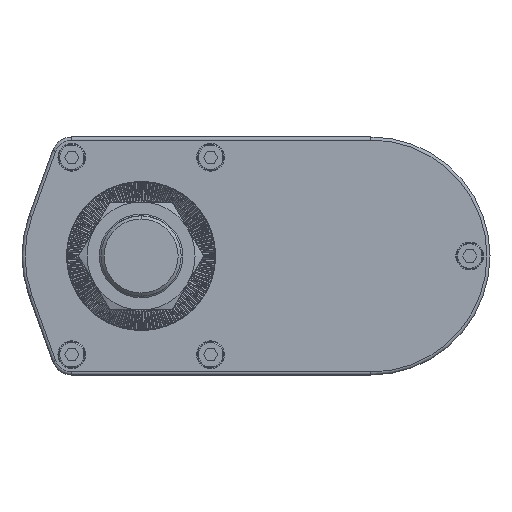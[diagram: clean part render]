
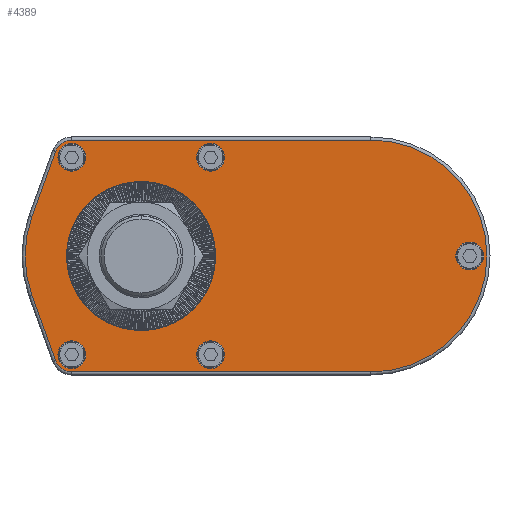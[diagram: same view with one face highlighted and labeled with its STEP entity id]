
A CAD part, left-side view. The second image highlights one B-rep face of the part: STEP entity #4389.
In plain terms, the highlighted planar face has unit normal (-1, 0, 0).
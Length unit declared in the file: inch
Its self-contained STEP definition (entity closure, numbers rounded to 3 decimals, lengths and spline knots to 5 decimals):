
#4389=ADVANCED_FACE('',(#9092,#9093,#9094,#9095,#9096,#9097,#9098),#9099,.F.);
#9092=FACE_BOUND('',#14452,.T.);
#9093=FACE_BOUND('',#14453,.T.);
#9094=FACE_BOUND('',#14454,.T.);
#9095=FACE_BOUND('',#14455,.T.);
#9096=FACE_BOUND('',#14456,.T.);
#9097=FACE_BOUND('',#14457,.T.);
#9098=FACE_OUTER_BOUND('',#14458,.T.);
#9099=PLANE('',#14459);
#14452=EDGE_LOOP('',(#27464,#27465));
#14453=EDGE_LOOP('',(#27466,#27467));
#14454=EDGE_LOOP('',(#27468,#27469));
#14455=EDGE_LOOP('',(#27470,#27471));
#14456=EDGE_LOOP('',(#27472,#27473));
#14457=EDGE_LOOP('',(#27474,#27475));
#14458=EDGE_LOOP('',(#27476,#27477,#27478,#27479,#27480,#27481,#27482,#27483));
#14459=AXIS2_PLACEMENT_3D('',#27484,#27485,#27486);
#27464=ORIENTED_EDGE('',*,*,#30936,.F.);
#27465=ORIENTED_EDGE('',*,*,#34832,.F.);
#27466=ORIENTED_EDGE('',*,*,#35222,.T.);
#27467=ORIENTED_EDGE('',*,*,#31739,.T.);
#27468=ORIENTED_EDGE('',*,*,#33063,.T.);
#27469=ORIENTED_EDGE('',*,*,#33734,.T.);
#27470=ORIENTED_EDGE('',*,*,#31790,.T.);
#27471=ORIENTED_EDGE('',*,*,#30305,.T.);
#27472=ORIENTED_EDGE('',*,*,#35181,.T.);
#27473=ORIENTED_EDGE('',*,*,#34360,.T.);
#27474=ORIENTED_EDGE('',*,*,#35223,.T.);
#27475=ORIENTED_EDGE('',*,*,#31310,.T.);
#27476=ORIENTED_EDGE('',*,*,#30865,.T.);
#27477=ORIENTED_EDGE('',*,*,#33901,.T.);
#27478=ORIENTED_EDGE('',*,*,#32261,.T.);
#27479=ORIENTED_EDGE('',*,*,#32916,.T.);
#27480=ORIENTED_EDGE('',*,*,#32761,.T.);
#27481=ORIENTED_EDGE('',*,*,#31705,.T.);
#27482=ORIENTED_EDGE('',*,*,#34961,.T.);
#27483=ORIENTED_EDGE('',*,*,#31522,.T.);
#27484=CARTESIAN_POINT('',(0.0,-2.93307,0.0));
#27485=DIRECTION('',(1.0,0.0,0.0));
#27486=DIRECTION('',(0.0,1.0,-0.0));
#30305=EDGE_CURVE('',#36197,#36195,#36198,.T.);
#30865=EDGE_CURVE('',#37156,#37161,#37163,.F.);
#30936=EDGE_CURVE('',#37278,#37280,#37281,.F.);
#31310=EDGE_CURVE('',#37945,#37943,#37946,.T.);
#31522=EDGE_CURVE('',#38282,#37156,#38286,.F.);
#31705=EDGE_CURVE('',#38577,#38574,#38578,.F.);
#31739=EDGE_CURVE('',#38629,#38627,#38630,.T.);
#31790=EDGE_CURVE('',#36195,#36197,#38718,.T.);
#32261=EDGE_CURVE('',#39436,#39434,#39437,.F.);
#32761=EDGE_CURVE('',#40172,#38577,#40173,.F.);
#32916=EDGE_CURVE('',#39434,#40172,#40390,.F.);
#33063=EDGE_CURVE('',#40588,#40592,#40594,.T.);
#33734=EDGE_CURVE('',#40592,#40588,#41495,.T.);
#33901=EDGE_CURVE('',#37161,#39436,#41703,.F.);
#34360=EDGE_CURVE('',#42267,#42265,#42268,.T.);
#34832=EDGE_CURVE('',#37280,#37278,#42821,.F.);
#34961=EDGE_CURVE('',#38574,#38282,#42961,.F.);
#35181=EDGE_CURVE('',#42265,#42267,#43193,.T.);
#35222=EDGE_CURVE('',#38627,#38629,#43234,.T.);
#35223=EDGE_CURVE('',#37943,#37945,#43235,.T.);
#36195=VERTEX_POINT('',#44393);
#36197=VERTEX_POINT('',#44396);
#36198=CIRCLE('',#44397,0.17717);
#37156=VERTEX_POINT('',#45682);
#37161=VERTEX_POINT('',#45687);
#37163=CIRCLE('',#45689,1.48031);
#37278=VERTEX_POINT('',#45844);
#37280=VERTEX_POINT('',#45847);
#37281=CIRCLE('',#45848,0.94882);
#37943=VERTEX_POINT('',#46598);
#37945=VERTEX_POINT('',#46601);
#37946=CIRCLE('',#46602,0.17717);
#38282=VERTEX_POINT('',#47059);
#38286=LINE('',#47064,#47065);
#38574=VERTEX_POINT('',#47489);
#38577=VERTEX_POINT('',#47492);
#38578=LINE('',#47493,#47494);
#38627=VERTEX_POINT('',#47563);
#38629=VERTEX_POINT('',#47566);
#38630=CIRCLE('',#47567,0.17717);
#38718=CIRCLE('',#47681,0.17717);
#39434=VERTEX_POINT('',#48695);
#39436=VERTEX_POINT('',#48697);
#39437=CIRCLE('',#48698,0.22047);
#40172=VERTEX_POINT('',#49713);
#40173=CIRCLE('',#49714,1.48031);
#40390=LINE('',#50009,#50010);
#40588=VERTEX_POINT('',#50298);
#40592=VERTEX_POINT('',#50303);
#40594=CIRCLE('',#50306,0.17717);
#41495=CIRCLE('',#51589,0.17717);
#41703=LINE('',#51871,#51872);
#42265=VERTEX_POINT('',#52661);
#42267=VERTEX_POINT('',#52664);
#42268=CIRCLE('',#52665,0.17717);
#42821=CIRCLE('',#53406,0.94882);
#42961=CIRCLE('',#53607,0.22047);
#43193=CIRCLE('',#53928,0.17717);
#43234=CIRCLE('',#53980,0.17717);
#43235=CIRCLE('',#53981,0.17717);
#44393=CARTESIAN_POINT('',(0.0,-0.8874,-1.43701));
#44396=CARTESIAN_POINT('',(0.0,-0.8874,-1.08268));
#44397=AXIS2_PLACEMENT_3D('',#54924,#54925,#54926);
#45682=CARTESIAN_POINT('',(0.0,1.39217,0.50319));
#45687=CARTESIAN_POINT('',(0.0,1.39217,-0.50319));
#45689=AXIS2_PLACEMENT_3D('',#55655,#55656,#55657);
#45844=CARTESIAN_POINT('',(0.0,0.0,-0.94882));
#45847=CARTESIAN_POINT('',(0.0,0.,0.94882));
#45848=AXIS2_PLACEMENT_3D('',#55738,#55739,#55740);
#46598=CARTESIAN_POINT('',(0.0,0.88425,-1.43701));
#46601=CARTESIAN_POINT('',(0.0,0.88425,-1.08268));
#46602=AXIS2_PLACEMENT_3D('',#56609,#56610,#56611);
#47059=CARTESIAN_POINT('',(0.0,1.0916,1.33479));
#47064=CARTESIAN_POINT('',(0.0,1.39217,0.50319));
#47065=VECTOR('',#56886,39.37008);
#47489=CARTESIAN_POINT('',(0.0,0.88425,1.48031));
#47492=CARTESIAN_POINT('',(0.0,-2.93307,1.48031));
#47493=CARTESIAN_POINT('',(0.0,0.88425,1.48031));
#47494=VECTOR('',#57096,39.37008);
#47563=CARTESIAN_POINT('',(0.0,-4.19449,-0.17717));
#47566=CARTESIAN_POINT('',(0.0,-4.19449,0.17717));
#47567=AXIS2_PLACEMENT_3D('',#57130,#57131,#57132);
#47681=AXIS2_PLACEMENT_3D('',#57210,#57211,#57212);
#48695=CARTESIAN_POINT('',(0.0,0.88425,-1.48031));
#48697=CARTESIAN_POINT('',(0.0,1.0916,-1.33479));
#48698=AXIS2_PLACEMENT_3D('',#57737,#57738,#57739);
#49713=CARTESIAN_POINT('',(0.0,-2.93307,-1.48031));
#49714=AXIS2_PLACEMENT_3D('',#58302,#58303,#58304);
#50009=CARTESIAN_POINT('',(0.0,-2.93307,-1.48031));
#50010=VECTOR('',#58524,39.37008);
#50298=CARTESIAN_POINT('',(0.0,0.88425,1.08268));
#50303=CARTESIAN_POINT('',(0.0,0.88425,1.43701));
#50306=AXIS2_PLACEMENT_3D('',#58685,#58686,#58687);
#51589=AXIS2_PLACEMENT_3D('',#59454,#59455,#59456);
#51871=CARTESIAN_POINT('',(0.0,1.0916,-1.33479));
#51872=VECTOR('',#59636,39.37008);
#52661=CARTESIAN_POINT('',(0.0,-0.8874,1.08268));
#52664=CARTESIAN_POINT('',(0.0,-0.8874,1.43701));
#52665=AXIS2_PLACEMENT_3D('',#60123,#60124,#60125);
#53406=AXIS2_PLACEMENT_3D('',#60692,#60693,#60694);
#53607=AXIS2_PLACEMENT_3D('',#60774,#60775,#60776);
#53928=AXIS2_PLACEMENT_3D('',#60904,#60905,#60906);
#53980=AXIS2_PLACEMENT_3D('',#60927,#60928,#60929);
#53981=AXIS2_PLACEMENT_3D('',#60930,#60931,#60932);
#54924=CARTESIAN_POINT('',(0.0,-0.8874,-1.25984));
#54925=DIRECTION('',(1.0,0.0,0.0));
#54926=DIRECTION('',(0.0,0.0,-1.0));
#55655=CARTESIAN_POINT('',(0.0,0.,0.0));
#55656=DIRECTION('',(1.0,0.0,0.0));
#55657=DIRECTION('',(0.0,0.0,-1.0));
#55738=CARTESIAN_POINT('',(0.0,0.0,0.0));
#55739=DIRECTION('',(1.0,0.0,0.0));
#55740=DIRECTION('',(0.0,0.0,-1.0));
#56609=CARTESIAN_POINT('',(0.0,0.88425,-1.25984));
#56610=DIRECTION('',(1.0,0.0,0.0));
#56611=DIRECTION('',(0.0,0.0,-1.0));
#56886=DIRECTION('',(0.0,-0.34,0.94));
#57096=DIRECTION('',(0.0,-1.0,0.0));
#57130=CARTESIAN_POINT('',(0.0,-4.19449,0.0));
#57131=DIRECTION('',(1.0,0.0,0.0));
#57132=DIRECTION('',(0.0,0.0,-1.0));
#57210=CARTESIAN_POINT('',(0.0,-0.8874,-1.25984));
#57211=DIRECTION('',(1.0,0.0,0.0));
#57212=DIRECTION('',(0.0,0.0,-1.0));
#57737=CARTESIAN_POINT('',(0.0,0.88425,-1.25984));
#57738=DIRECTION('',(1.0,0.0,0.0));
#57739=DIRECTION('',(0.0,0.0,-1.0));
#58302=CARTESIAN_POINT('',(0.0,-2.93307,0.0));
#58303=DIRECTION('',(1.0,0.0,0.0));
#58304=DIRECTION('',(0.0,0.0,-1.0));
#58524=DIRECTION('',(0.0,1.0,0.0));
#58685=CARTESIAN_POINT('',(0.0,0.88425,1.25984));
#58686=DIRECTION('',(1.0,0.0,0.0));
#58687=DIRECTION('',(0.0,0.0,-1.0));
#59454=CARTESIAN_POINT('',(0.0,0.88425,1.25984));
#59455=DIRECTION('',(1.0,0.0,0.0));
#59456=DIRECTION('',(0.0,0.0,-1.0));
#59636=DIRECTION('',(0.0,0.34,0.94));
#60123=CARTESIAN_POINT('',(0.0,-0.8874,1.25984));
#60124=DIRECTION('',(1.0,0.0,0.0));
#60125=DIRECTION('',(0.0,0.0,-1.0));
#60692=CARTESIAN_POINT('',(0.0,0.0,0.0));
#60693=DIRECTION('',(1.0,0.0,0.0));
#60694=DIRECTION('',(0.0,0.0,-1.0));
#60774=CARTESIAN_POINT('',(0.0,0.88425,1.25984));
#60775=DIRECTION('',(1.0,0.0,0.0));
#60776=DIRECTION('',(0.0,0.0,-1.0));
#60904=CARTESIAN_POINT('',(0.0,-0.8874,1.25984));
#60905=DIRECTION('',(1.0,0.0,0.0));
#60906=DIRECTION('',(0.0,0.0,-1.0));
#60927=CARTESIAN_POINT('',(0.0,-4.19449,0.0));
#60928=DIRECTION('',(1.0,0.0,0.0));
#60929=DIRECTION('',(0.0,0.0,-1.0));
#60930=CARTESIAN_POINT('',(0.0,0.88425,-1.25984));
#60931=DIRECTION('',(1.0,0.0,0.0));
#60932=DIRECTION('',(0.0,0.0,-1.0));
